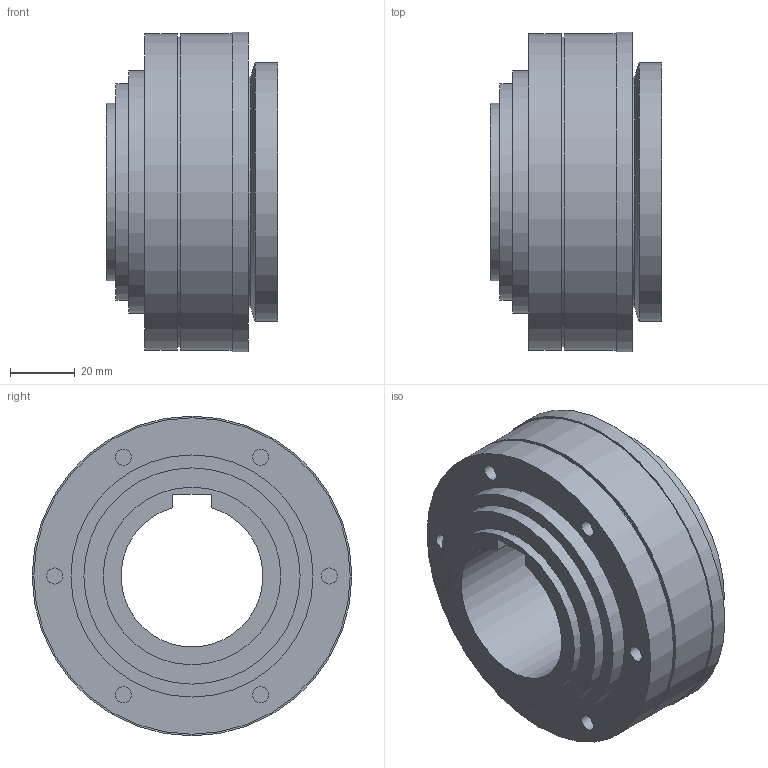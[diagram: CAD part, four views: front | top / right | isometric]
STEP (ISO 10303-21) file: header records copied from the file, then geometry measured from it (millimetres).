
FILE_DESCRIPTION(/* description */ ('STEP AP214'),/* implementation_level */ '2;1');
FILE_NAME(/* name */ 'C:\Diequa Files\DieQua Coupling\THK\STP\THK.200.54.WDG.#.stp',/* time_stamp */ '2019-03-19T11:21:44-05:00',/* author */ ('DiequaCAD'),/* organization */ (''),/* preprocessor_version */ 'ST-DEVELOPER v17.2',/* originating_system */ 'Autodesk Inventor 2019',/* authorisation */ ' ');
FILE_SCHEMA (('AUTOMOTIVE_DESIGN { 1 0 10303 214 3 1 1 }'));
Length unit declared in the file: millimetre
Products named in the file (1): THK.200.54.WDG.#
Bounding box: 53.2 x 99 x 99 mm (x, y, z)
Volume: 245506.7 mm3; surface area: 38075.7 mm2
Topology: 1 solids, 1 shells, 35 faces, 58 edges, 38 vertices
Faces by surface type: plane 18, cylinder 16, cone 1
Full cylindrical faces by diameter (mm): 5 x6, 55 x1, 67 x1, 71.2 x1, 75 x1, 80 x1, 96 x1, 98 x2, 99 x1
Entity records: 882 total; most frequent: DIRECTION 162, CARTESIAN_POINT 132, ORIENTED_EDGE 116, AXIS2_PLACEMENT_3D 68, EDGE_CURVE 58, EDGE_LOOP 50, VERTEX_POINT 38, FACE_OUTER_BOUND 35
